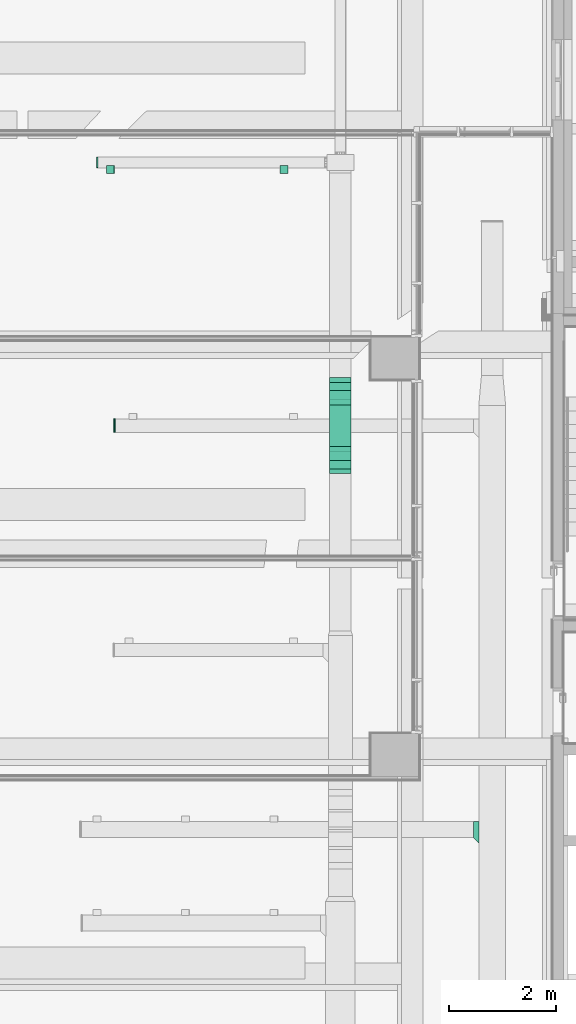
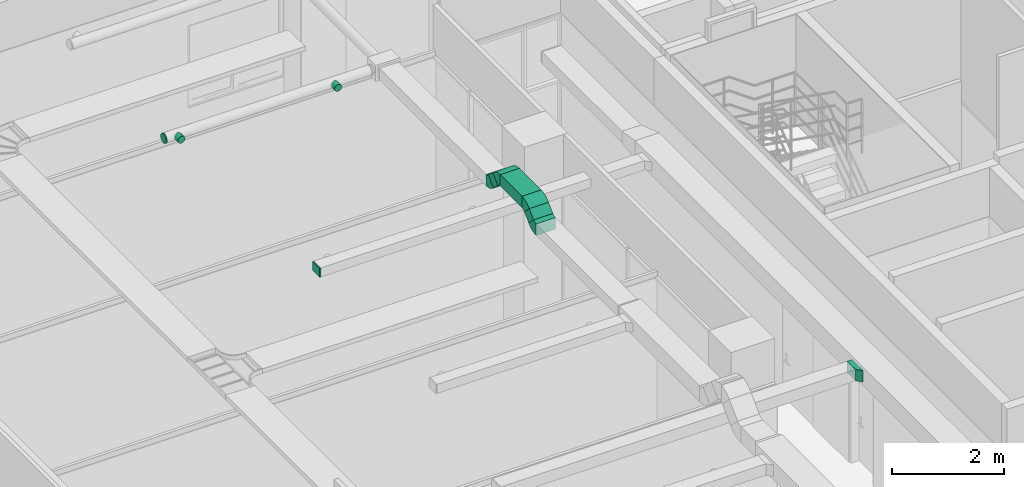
# One storey, part 90 of 100: 9 flow fittings, 3 flow segments.
"""IFC2X3 building model written with IfcOpenShell, lengths in millimetres."""

from ifc_helpers import new_model, entity, si_unit, converted_unit, derived_unit, direction, frame, frame_2d, origin, origin_2d_with_axis, place, context, subcontext, project, spatial, polyline, circle_curve, parameter, trimmed, segment, composite_curve, rectangle, circle, outline, extrude, faceted_brep, source, transform, mapped, material, type_object, type_shapes, element, save


model = new_model("IFC2X3")

# Units and contexts
model_context = context("Model", 3, precision=0.01, world=origin(), true_north=direction((6.123031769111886e-17, 1.0)))
body_context = subcontext(model_context, "Body", "Model", "MODEL_VIEW")
ifc_project = project(units=[si_unit("LENGTHUNIT", "METRE", prefix="MILLI"), si_unit("AREAUNIT", "SQUARE_METRE"), si_unit("VOLUMEUNIT", "CUBIC_METRE"), converted_unit("PLANEANGLEUNIT", "DEGREE", entity("IfcRatioMeasure", 0.017453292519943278), si_unit("PLANEANGLEUNIT", "RADIAN"), dimensions=[0, 0, 0, 0, 0, 0, 0]), si_unit("MASSUNIT", "GRAM", prefix="KILO"), derived_unit("MASSDENSITYUNIT", [(si_unit("MASSUNIT", "GRAM", prefix="KILO"), 1), (si_unit("LENGTHUNIT", "METRE"), -3)]), derived_unit("MOMENTOFINERTIAUNIT", [(si_unit("LENGTHUNIT", "METRE"), 4)]), si_unit("TIMEUNIT", "SECOND"), si_unit("FREQUENCYUNIT", "HERTZ"), si_unit("THERMODYNAMICTEMPERATUREUNIT", "DEGREE_CELSIUS"), derived_unit("THERMALTRANSMITTANCEUNIT", [(si_unit("MASSUNIT", "GRAM", prefix="KILO"), 1), (si_unit("THERMODYNAMICTEMPERATUREUNIT", "KELVIN"), -1), (si_unit("TIMEUNIT", "SECOND"), -3)]), derived_unit("VOLUMETRICFLOWRATEUNIT", [(si_unit("LENGTHUNIT", "METRE"), 3), (si_unit("TIMEUNIT", "SECOND"), -1)]), derived_unit("MASSFLOWRATEUNIT", [(si_unit("MASSUNIT", "GRAM", prefix="KILO"), 1), (si_unit("TIMEUNIT", "SECOND"), -1)]), derived_unit("ROTATIONALFREQUENCYUNIT", [(si_unit("TIMEUNIT", "SECOND"), -1)]), si_unit("ELECTRICCURRENTUNIT", "AMPERE"), si_unit("ELECTRICVOLTAGEUNIT", "VOLT"), si_unit("POWERUNIT", "WATT"), si_unit("FORCEUNIT", "NEWTON", prefix="KILO"), si_unit("ILLUMINANCEUNIT", "LUX"), si_unit("LUMINOUSFLUXUNIT", "LUMEN"), si_unit("LUMINOUSINTENSITYUNIT", "CANDELA"), derived_unit("USERDEFINED", [(si_unit("MASSUNIT", "GRAM", prefix="KILO"), -1), (si_unit("LENGTHUNIT", "METRE"), -2), (si_unit("TIMEUNIT", "SECOND"), 3), (si_unit("LUMINOUSFLUXUNIT", "LUMEN"), 1)]), derived_unit("SOUNDPOWERUNIT", [(si_unit("MASSUNIT", "GRAM", prefix="KILO"), 1), (si_unit("LENGTHUNIT", "METRE"), 2), (si_unit("TIMEUNIT", "SECOND"), -3)]), derived_unit("SOUNDPRESSUREUNIT", [(si_unit("MASSUNIT", "GRAM", prefix="KILO"), 1), (si_unit("LENGTHUNIT", "METRE"), -1), (si_unit("TIMEUNIT", "SECOND"), -2)]), derived_unit("LINEARVELOCITYUNIT", [(si_unit("LENGTHUNIT", "METRE"), 1), (si_unit("TIMEUNIT", "SECOND"), -1)]), si_unit("PRESSUREUNIT", "PASCAL"), derived_unit("USERDEFINED", [(si_unit("LENGTHUNIT", "METRE"), -2), (si_unit("MASSUNIT", "GRAM", prefix="KILO"), 1), (si_unit("TIMEUNIT", "SECOND"), -2)]), derived_unit("LINEARFORCEUNIT", [(si_unit("MASSUNIT", "GRAM", prefix="KILO"), 1), (si_unit("LENGTHUNIT", "METRE"), 1), (si_unit("TIMEUNIT", "SECOND"), -2), (si_unit("LENGTHUNIT", "METRE"), -1)]), derived_unit("PLANARFORCEUNIT", [(si_unit("MASSUNIT", "GRAM", prefix="KILO"), 1), (si_unit("LENGTHUNIT", "METRE"), 1), (si_unit("TIMEUNIT", "SECOND"), -2), (si_unit("LENGTHUNIT", "METRE"), -2)])], contexts=[model_context])

# Site, building, storey
site_placement = place(None, frame((-14167.972527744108, -657.2125860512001, 0.0)))
site = spatial("IfcSite", under=ifc_project, at=site_placement, Name="Default", CompositionType="ELEMENT")
building_placement = place(site_placement, origin())
building = spatial("IfcBuilding", under=site, at=building_placement, Name="Sample Building", CompositionType="ELEMENT")
storey_placement = place(building_placement, origin())
storey = spatial("IfcBuildingStorey", under=building, at=storey_placement, Name="지상 1층", CompositionType="ELEMENT", Elevation=0.0)

# Flow fitting
ifc_material = material(Name="<Unnamed>")
duct_fitting_type_1 = type_object("IfcDuctFittingType", Name="M_직사각형 탭 - 베벨:SA", PredefinedType="NOTDEFINED", material=ifc_material)
shared_shape_1 = source(origin(), body_context, "Body", "SweptSolid", [
    extrude(outline(polyline([(-62.43839999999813, -220.0), (43.65760000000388, -220.0), (43.65760000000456, 180.0), (37.561600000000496, 180.0), (-62.43839999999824, 80.0), (-62.43839999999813, -220.0)])), frame((37.561600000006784, -70.0, -125.0), z_axis=(0.0, 0.0, 1.0), x_axis=(-1.0, 0.0, 0.0)), (0.0, 0.0, 1.0), 249.99999999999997),
])
type_shapes(duct_fitting_type_1, [shared_shape_1])
flow_fitting_1_placement = place(storey_placement, frame((28682.150815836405, 18565.84036522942, 4180.0), z_axis=(0.0, 0.0, -1.0), x_axis=(-1.0, 0.0, 0.0)))
element("IfcFlowFitting", 1, at=flow_fitting_1_placement, inside=storey, type_object=duct_fitting_type_1, material=ifc_material, Name="M_직사각형 탭 - 베벨:SA", ObjectType="M_직사각형 탭 - 베벨:SA", context=body_context, shape_type="MappedRepresentation", body=[
    mapped(shared_shape_1, transform((0.0, 0.0, 0.0), scale=1.0)),
])

# Flow segments
duct_segment_type = type_object("IfcDuctSegmentType", Name="직사각형 덕트:RA", PredefinedType="NOTDEFINED")
flow_segment_1_placement = place(storey_placement, origin())
element("IfcFlowSegment", 2, at=flow_segment_1_placement, inside=storey, type_object=duct_segment_type, Name="직사각형 덕트:RA", ObjectType="직사각형 덕트:RA", context=body_context, shape_type="SweptSolid", body=[
    extrude(rectangle(XDim=777.7203634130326, YDim=400.0, at=frame_2d((0.0, -2.1742607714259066e-12), x_axis=(1.0, 0.0))), frame((26099.510782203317, 26102.051180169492, 4355.0), z_axis=(0.0, 0.0, 1.0), x_axis=(0.0, -1.0, 0.0)), (0.0, 0.0, 1.0), 250.00000000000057),
])
flow_segment_2_placement = place(storey_placement, origin())
element("IfcFlowSegment", 3, at=flow_segment_2_placement, inside=storey, type_object=duct_segment_type, Name="직사각형 덕트:RA", ObjectType="직사각형 덕트:RA", context=body_context, shape_type="SweptSolid", body=[
    extrude(rectangle(XDim=217.15728752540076, YDim=250.00000000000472, at=frame_2d((-7.602807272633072e-13, -7.744915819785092e-13), x_axis=(1.0, 0.0))), frame((25899.510782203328, 25459.63760786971, 4330.0), z_axis=(1.0, 0.0, 0.0), x_axis=(0.0, -0.707106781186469, -0.7071067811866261)), (0.0, 0.0, 1.0), 399.99999999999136),
])
flow_segment_3_placement = place(storey_placement, origin())
element("IfcFlowSegment", 4, at=flow_segment_3_placement, inside=storey, type_object=duct_segment_type, Name="직사각형 덕트:RA", ObjectType="직사각형 덕트:RA", context=body_context, shape_type="SweptSolid", body=[
    extrude(rectangle(XDim=217.1572875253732, YDim=249.99999999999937, at=frame_2d((-1.9184653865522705e-13, 1.8474111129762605e-13), x_axis=(1.0, 0.0))), frame((25899.510782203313, 26744.46475246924, 4330.0), z_axis=(1.0, 0.0, 0.0), x_axis=(0.0, -0.7071067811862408, 0.7071067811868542)), (0.0, 0.0, 1.0), 400.0000000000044),
])

# Flow fittings
duct_fitting_type_2 = type_object("IfcDuctFittingType", Name="M_원형 끝마감:RA", PredefinedType="NOTDEFINED", material=ifc_material)
shared_shape_2 = source(origin(), body_context, "Body", "SweptSolid", [
    extrude(circle(Radius=99.99999999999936, at=frame_2d((2.322114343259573e-13, -2.5119270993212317e-13), x_axis=(1.0, 0.0))), frame((0.0, 0.0, 0.0), z_axis=(1.0, 0.0, 0.0), x_axis=(0.0, 1.0, 0.0)), (0.0, 0.0, 1.0), 25.000000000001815),
])
type_shapes(duct_fitting_type_2, [shared_shape_2])
flow_fitting_2_placement = place(storey_placement, frame((21572.762519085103, 31013.30025172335, 4180.0), z_axis=(0.0, 0.0, 1.0), x_axis=(-1.0, 0.0, 0.0)))
element("IfcFlowFitting", 5, at=flow_fitting_2_placement, inside=storey, type_object=duct_fitting_type_2, material=ifc_material, Name="M_원형 끝마감:RA", ObjectType="M_원형 끝마감:RA", context=body_context, shape_type="MappedRepresentation", body=[
    mapped(shared_shape_2, transform((0.0, 0.0, 0.0), scale=1.0)),
])
duct_fitting_type_3 = type_object("IfcDuctFittingType", Name="M_직사각형 끝마감:SA", PredefinedType="NOTDEFINED", material=ifc_material)
shared_shape_3 = source(origin(), body_context, "Body", "SweptSolid", [
    extrude(rectangle(XDim=25.000000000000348, YDim=250.00000000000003, at=origin_2d_with_axis()), frame((12.500000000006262, 0.0, -100.0)), (0.0, 0.0, 1.0), 200.0),
])
type_shapes(duct_fitting_type_3, [shared_shape_3])
flow_fitting_3_placement = place(storey_placement, frame((21894.65012452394, 26102.05118016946, 4180.0), z_axis=(0.0, 0.0, 1.0), x_axis=(-1.0, 0.0, 0.0)))
element("IfcFlowFitting", 6, at=flow_fitting_3_placement, inside=storey, type_object=duct_fitting_type_3, material=ifc_material, Name="M_직사각형 끝마감:SA", ObjectType="M_직사각형 끝마감:SA", context=body_context, shape_type="MappedRepresentation", body=[
    mapped(shared_shape_3, transform((0.0, 0.0, 0.0), scale=1.0)),
])
duct_fitting_type_4 = type_object("IfcDuctFittingType", Name="M_직사각형 엘보 - 반지름:RA", PredefinedType="NOTDEFINED", material=ifc_material)
shared_shape_4 = source(origin(), body_context, "Body", "SweptSolid", [
    extrude(outline(composite_curve([segment(polyline([(-161.61165235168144, -88.3883476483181), (88.38834764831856, -88.38834764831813)]), True, "CONTINUOUS"), segment(trimmed(circle_curve(frame_2d((213.38834764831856, -88.38834764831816), x_axis=(-0.7071067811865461, 0.7071067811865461)), 125.00000000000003), [parameter(0.0)], [parameter(44.99999999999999)], True, "PARAMETER"), False, "CONTINUOUS"), segment(polyline([(125.0, 0.0), (-51.7766952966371, 176.77669529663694)]), True, "CONTINUOUS"), segment(trimmed(circle_curve(frame_2d((213.38834764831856, -88.38834764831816), x_axis=(-0.7071067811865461, 0.7071067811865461)), 375.0), [parameter(0.0)], [parameter(44.99999999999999)], True, "PARAMETER"), True, "CONTINUOUS")], self_intersect=False)), frame((-15.165042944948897, 36.61165235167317, -200.0), z_axis=(0.0, 0.0, 1.0), x_axis=(-0.7071067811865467, 0.7071067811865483, 0.0)), (0.0, 0.0, 1.0), 400.0),
])
type_shapes(duct_fitting_type_4, [shared_shape_4])
for number, where, z_axis, x_axis in (
    (7, (26099.510782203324, 25309.6376078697, 4180.0), (1.0, 0.0, 0.0), (0.0, 1.0, 0.0)),
    (8, (26099.51078220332, 25609.637607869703, 4480.0), (-1.0, 0.0, 0.0), (0.0, 0.707106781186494, 0.7071067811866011)),
    (9, (26099.51078220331, 26894.46475246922, 4180.0), (-1.0, 0.0, 0.0), (0.0, -1.0, 0.0)),
    (10, (26099.510782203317, 26594.46475246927, 4480.0), (-1.0, 0.0, 0.0), (0.0, 1.0, 0.0)),
):
    element("IfcFlowFitting", number, at=place(storey_placement, frame(where, z_axis=z_axis, x_axis=x_axis)), inside=storey, type_object=duct_fitting_type_4, material=ifc_material, Name="M_직사각형 엘보 - 반지름:RA", ObjectType="M_직사각형 엘보 - 반지름:RA", context=body_context, shape_type="MappedRepresentation", body=[
        mapped(shared_shape_4, transform((0.0, 0.0, 0.0), scale=1.0)),
    ])
duct_fitting_type_5 = type_object("IfcDuctFittingType", Name="M_원형 견적:RA", PredefinedType="NOTDEFINED", material=ifc_material)
shared_shape_5 = source(origin(), body_context, "Body", "Brep", [
    faceted_brep([(101.60000000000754, 19.411428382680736, -72.44443697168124), (101.6000000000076, 37.499999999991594, -64.95190528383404), (101.60000000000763, 53.03300858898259, -53.03300858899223), (101.60000000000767, 64.95190528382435, -37.500000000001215), (101.60000000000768, 72.44443697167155, -19.411428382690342), (101.6000000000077, 75.0, 0.0), (101.60000000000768, 72.44443697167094, 19.411428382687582), (101.60000000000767, 64.95190528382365, 37.49999999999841), (101.60000000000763, 53.033008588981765, 53.03300858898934), (101.6000000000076, 37.49999999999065, 64.95190528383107), (101.60000000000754, 19.411428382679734, 72.44443697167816), (101.6000000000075, 0.0, 75.0), (101.60000000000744, -19.4114283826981, 72.44443697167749), (101.6000000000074, -37.500000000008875, 64.95190528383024), (101.60000000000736, -53.03300858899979, 53.03300858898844), (101.60000000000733, -64.95190528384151, 37.49999999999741), (101.60000000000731, -72.4444369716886, 19.41142838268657), (101.60000000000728, -75.0, 0.0), (101.60000000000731, -72.4444369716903, -19.411428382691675), (101.60000000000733, -64.95190528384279, -37.500000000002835), (101.60000000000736, -53.033008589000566, -53.03300858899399), (101.6000000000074, -37.50000000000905, -64.95190528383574), (101.60000000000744, -19.41142838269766, -72.44443697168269), (101.6000000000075, 0.0, -75.0), (0.0, 19.411428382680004, 72.44443697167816), (-39.95221722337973, 19.41142838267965, 72.44443697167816), (-39.952217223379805, 0.0, 75.0), (0.0, 0.0, 75.0), (0.0, 37.49999999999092, 64.95190528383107), (-39.95221722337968, 37.499999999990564, 64.95190528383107), (0.0, 53.03300858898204, 53.03300858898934), (-39.95221722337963, 53.03300858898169, 53.03300858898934), (0.0, 72.44443697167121, 19.411428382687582), (-39.952217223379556, 72.44443697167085, 19.411428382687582), (-39.952217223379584, 64.95190528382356, 37.49999999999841), (0.0, 64.95190528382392, 37.49999999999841), (0.0, 75.0, 0.0), (-39.95221722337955, 75.0, 0.0), (0.0, 64.95190528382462, -37.500000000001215), (-39.952217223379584, 64.95190528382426, -37.500000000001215), (-39.952217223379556, 72.44443697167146, -19.411428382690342), (0.0, 72.44443697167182, -19.411428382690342), (0.0, 53.03300858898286, -53.03300858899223), (-39.95221722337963, 53.033008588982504, -53.03300858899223), (0.0, 19.411428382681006, -72.44443697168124), (-39.95221722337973, 19.41142838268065, -72.44443697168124), (-39.95221722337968, 37.499999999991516, -64.95190528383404), (0.0, 37.49999999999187, -64.95190528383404), (0.0, 0.0, -75.0), (-39.952217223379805, 0.0, -75.0), (0.0, -19.41142838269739, -72.44443697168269), (-39.95221722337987, -19.411428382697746, -72.44443697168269), (0.0, -37.50000000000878, -64.95190528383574), (-39.952217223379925, -37.50000000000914, -64.95190528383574), (0.0, -53.033008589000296, -53.03300858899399), (-39.95221722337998, -53.03300858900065, -53.03300858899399), (0.0, -72.44443697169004, -19.411428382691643), (-39.952217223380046, -72.44443697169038, -19.411428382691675), (-39.95221722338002, -64.95190528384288, -37.500000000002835), (0.0, -64.95190528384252, -37.500000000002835), (0.0, -75.0, 0.0), (-39.95221722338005, -75.0, 0.0), (0.0, -72.44443697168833, 19.41142838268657), (-39.952217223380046, -72.44443697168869, 19.41142838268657), (0.0, -64.95190528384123, 37.49999999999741), (-39.95221722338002, -64.95190528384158, 37.49999999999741), (0.0, -53.033008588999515, 53.03300858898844), (-39.95221722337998, -53.03300858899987, 53.03300858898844), (0.0, -19.41142838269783, 72.44443697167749), (-39.95221722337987, -19.411428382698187, 72.44443697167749), (-39.952217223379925, -37.50000000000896, 64.95190528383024), (0.0, -37.500000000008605, 64.95190528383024)], [[[0, 1, 2, 3, 4, 5, 6, 7, 8, 9, 10, 11, 12, 13, 14, 15, 16, 17, 18, 19, 20, 21, 22, 23]], [[24, 25, 26, 27, 11, 10]], [[28, 29, 25, 24, 10, 9]], [[9, 8, 30, 31, 29, 28]], [[32, 33, 34, 35, 7, 6]], [[36, 37, 33, 32, 6, 5]], [[8, 7, 35, 34, 31, 30]], [[4, 3, 38, 39, 40, 41]], [[5, 4, 41, 40, 37, 36]], [[42, 43, 39, 38, 3, 2]], [[44, 45, 46, 47, 1, 0]], [[48, 49, 45, 44, 0, 23]], [[2, 1, 47, 46, 43, 42]], [[50, 51, 49, 48, 23, 22]], [[52, 53, 51, 50, 22, 21]], [[21, 20, 54, 55, 53, 52]], [[56, 57, 58, 59, 19, 18]], [[60, 61, 57, 56, 18, 17]], [[20, 19, 59, 58, 55, 54]], [[62, 63, 61, 60, 17, 16]], [[64, 65, 63, 62, 16, 15]], [[15, 14, 66, 67, 65, 64]], [[68, 69, 70, 71, 13, 12]], [[27, 26, 69, 68, 12, 11]], [[14, 13, 71, 70, 67, 66]], [[49, 51, 53, 55, 58, 57, 61, 63, 65, 67, 70, 69, 26, 25, 29, 31, 34, 33, 37, 40, 39, 43, 46, 45]]]),
])
type_shapes(duct_fitting_type_5, [shared_shape_5])
for number, where, z_axis, x_axis in (
    (11, (21805.729758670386, 30913.300251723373, 4180.0), (0.0, 0.0, -1.0), (0.0, -1.0, 0.0)),
    (12, (25046.30310610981, 30913.300251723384, 4180.0), (0.0, 0.0, -1.0), (0.0, -1.0, 0.0)),
):
    element("IfcFlowFitting", number, at=place(storey_placement, frame(where, z_axis=z_axis, x_axis=x_axis)), inside=storey, type_object=duct_fitting_type_5, material=ifc_material, Name="M_원형 견적:RA", ObjectType="M_원형 견적:RA", context=body_context, shape_type="MappedRepresentation", body=[
        mapped(shared_shape_5, transform((0.0, 0.0, 0.0), scale=1.0)),
    ])

save(model, "model.ifc")
